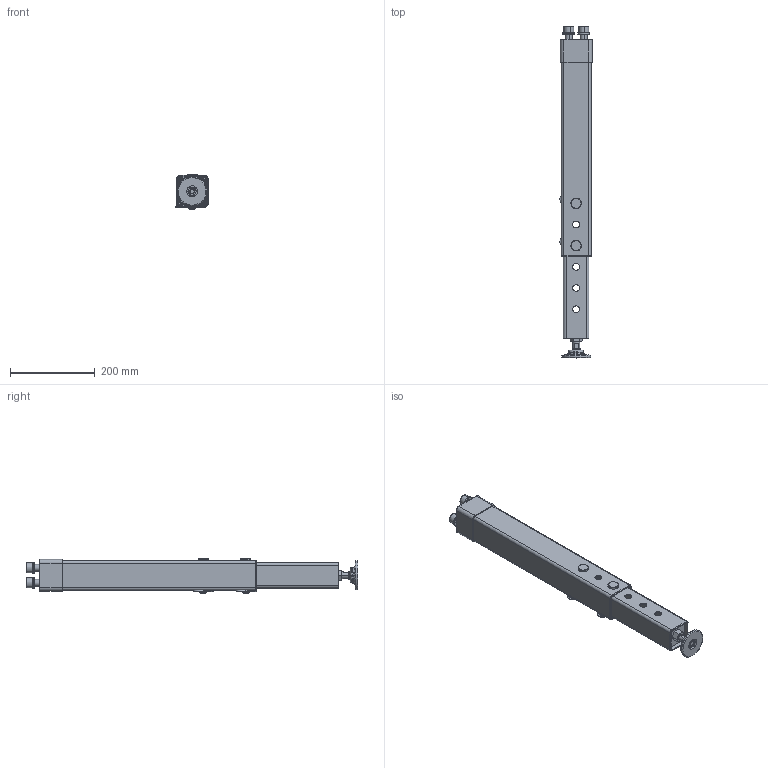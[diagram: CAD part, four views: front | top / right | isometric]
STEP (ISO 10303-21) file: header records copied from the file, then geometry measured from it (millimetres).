
FILE_DESCRIPTION (( 'STEP AP203' ), '1' );
FILE_NAME ('160877.X_550-950.step', '2014-08-11T17:01:32', ( 'User' ), ( '' ), 'SwSTEP 2.0', 'SolidWorks 2014', '' );
FILE_SCHEMA (( 'CONFIG_CONTROL_DESIGN' ));
Length unit declared in the file: millimetre
Products named in the file (13): Klammer Fuﾟ; 16_Bolzen für Höhenverst. ExtremeFuß; Rohr oben^160877.X_550-950; Hexagon Nut ISO 4034 - M16 - N_Hexagon Nut ISO 4034 - M16 - N; Rohr unten^160877.X_550-950; M16x50 DIN 912_Detailliert; 160873 Manschette_Foto_V1 Kreis; Ring DIN 127 A16; M16x1,5 Spindel 80_ohne gew; 160877.X_550-950; 160863.T2_Teller 70; Hexagon Nut ISO 4032 - M12 - W - N_Hexagon Nut ISO 4032 - M12 - W - N; 160855.X.1_ Verstelleinheit_Variante2_Fuáteller 60
Assembly tree (16 placements, depth 3):
  160877.X_550-950
    Rohr oben^160877.X_550-950
    Rohr unten^160877.X_550-950
    160873 Manschette_Foto_V1 Kreis
    160855.X.1_ Verstelleinheit_Variante2_Fuáteller 60
      M16x1,5 Spindel 80_ohne gew
      160863.T2_Teller 70
      Hexagon Nut ISO 4032 - M12 - W - N_Hexagon Nut ISO 4032 - M12 - W - N
    Klammer Fuﾟ  x2
    16_Bolzen für Höhenverst. ExtremeFuß  x2
    Hexagon Nut ISO 4034 - M16 - N_Hexagon Nut ISO 4034 - M16 - N
    M16x50 DIN 912_Detailliert  x2
    Ring DIN 127 A16  x2
Bounding box: 75.91 x 783.5 x 82 mm (x, y, z)
Volume: 996437.8 mm3; surface area: 565733.5 mm2
Topology: 15 solids, 15 shells, 457 faces, 1042 edges, 624 vertices
Faces by surface type: cylinder 180, plane 111, torus 106, cone 60
Entity records: 12917 total; most frequent: CARTESIAN_POINT 2234, DIRECTION 2150, ORIENTED_EDGE 1784, AXIS2_PLACEMENT_3D 904, EDGE_CURVE 892, VERTEX_POINT 536, CIRCLE 498, EDGE_LOOP 458
